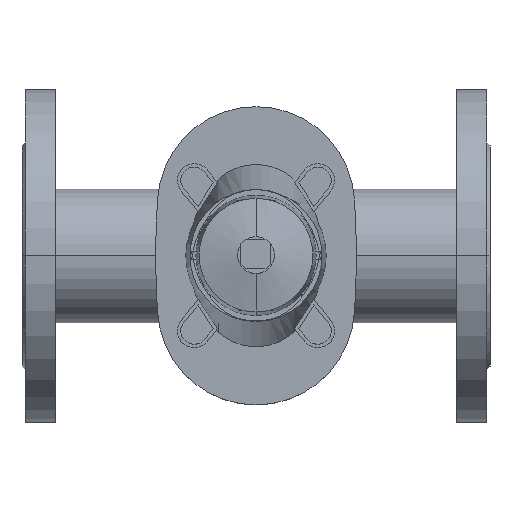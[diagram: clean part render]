
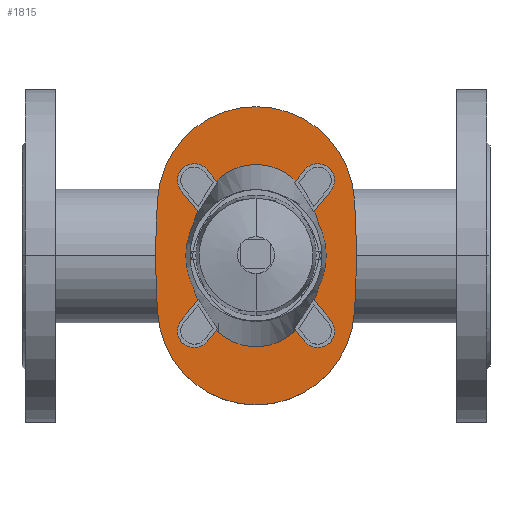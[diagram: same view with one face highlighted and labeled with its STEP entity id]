
A CAD part, top view. The second image highlights one B-rep face of the part: STEP entity #1815.
In plain terms, the highlighted planar face has unit normal (0, 0, 1).
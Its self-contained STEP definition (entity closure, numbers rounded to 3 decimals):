
#1815=ADVANCED_FACE('',(#3370),#3371,.T.);
#3370=FACE_OUTER_BOUND('',#5214,.T.);
#3371=PLANE('',#5215);
#5214=EDGE_LOOP('',(#8862,#8863,#8864,#8865,#8866,#8867));
#5215=AXIS2_PLACEMENT_3D('',#8868,#8869,#8870);
#8862=ORIENTED_EDGE('',*,*,#10063,.F.);
#8863=ORIENTED_EDGE('',*,*,#9048,.F.);
#8864=ORIENTED_EDGE('',*,*,#10074,.F.);
#8865=ORIENTED_EDGE('',*,*,#10199,.F.);
#8866=ORIENTED_EDGE('',*,*,#9138,.F.);
#8867=ORIENTED_EDGE('',*,*,#8997,.F.);
#8868=CARTESIAN_POINT('',(140.006,-0.097,129.0));
#8869=DIRECTION('',(0.0,0.0,1.0));
#8870=DIRECTION('',(1.0,0.0,0.0));
#8997=EDGE_CURVE('',#10489,#10491,#10492,.T.);
#9048=EDGE_CURVE('',#10581,#10582,#10583,.T.);
#9138=EDGE_CURVE('',#10491,#10737,#10738,.T.);
#10063=EDGE_CURVE('',#10582,#10489,#12158,.T.);
#10074=EDGE_CURVE('',#12172,#10581,#12174,.T.);
#10199=EDGE_CURVE('',#10737,#12172,#12317,.T.);
#10489=VERTEX_POINT('',#12641);
#10491=VERTEX_POINT('',#12644);
#10492=CIRCLE('',#12645,529.445);
#10581=VERTEX_POINT('',#12753);
#10582=VERTEX_POINT('',#12754);
#10583=CIRCLE('',#12755,59.);
#10737=VERTEX_POINT('',#12951);
#10738=CIRCLE('',#12952,59.);
#12158=CIRCLE('',#14780,529.445);
#12172=VERTEX_POINT('',#14795);
#12174=CIRCLE('',#14798,529.445);
#12317=CIRCLE('',#14985,529.445);
#12641=CARTESIAN_POINT('',(199.977,-0.193,129.0));
#12644=CARTESIAN_POINT('',(198.891,-34.084,129.0));
#12645=AXIS2_PLACEMENT_3D('',#15326,#15327,#15328);
#12753=CARTESIAN_POINT('',(81.121,33.891,129.0));
#12754=CARTESIAN_POINT('',(198.877,33.915,129.0));
#12755=AXIS2_PLACEMENT_3D('',#15420,#15421,#15422);
#12951=CARTESIAN_POINT('',(81.135,-34.108,129.0));
#12952=AXIS2_PLACEMENT_3D('',#15540,#15541,#15542);
#14780=AXIS2_PLACEMENT_3D('',#16809,#16810,#16811);
#14795=CARTESIAN_POINT('',(80.035,0.,129.0));
#14798=AXIS2_PLACEMENT_3D('',#16829,#16830,#16831);
#14985=AXIS2_PLACEMENT_3D('',#16960,#16961,#16962);
#15326=CARTESIAN_POINT('',(-329.468,-0.193,129.0));
#15327=DIRECTION('',(0.0,0.0,-1.0));
#15328=DIRECTION('',(1.0,0.0,0.0));
#15420=CARTESIAN_POINT('',(140.,30.114,129.0));
#15421=DIRECTION('',(0.0,0.0,-1.0));
#15422=DIRECTION('',(1.0,0.0,0.0));
#15540=CARTESIAN_POINT('',(140.012,-30.307,129.0));
#15541=DIRECTION('',(0.0,0.0,-1.0));
#15542=DIRECTION('',(1.0,0.0,0.0));
#16809=CARTESIAN_POINT('',(-329.468,-0.193,129.0));
#16810=DIRECTION('',(0.0,0.0,-1.0));
#16811=DIRECTION('',(1.0,0.0,0.0));
#16829=CARTESIAN_POINT('',(609.48,0.,129.0));
#16830=DIRECTION('',(0.0,0.0,-1.0));
#16831=DIRECTION('',(1.0,0.0,0.0));
#16960=CARTESIAN_POINT('',(609.48,0.,129.0));
#16961=DIRECTION('',(0.0,0.0,-1.0));
#16962=DIRECTION('',(1.0,0.0,0.0));
